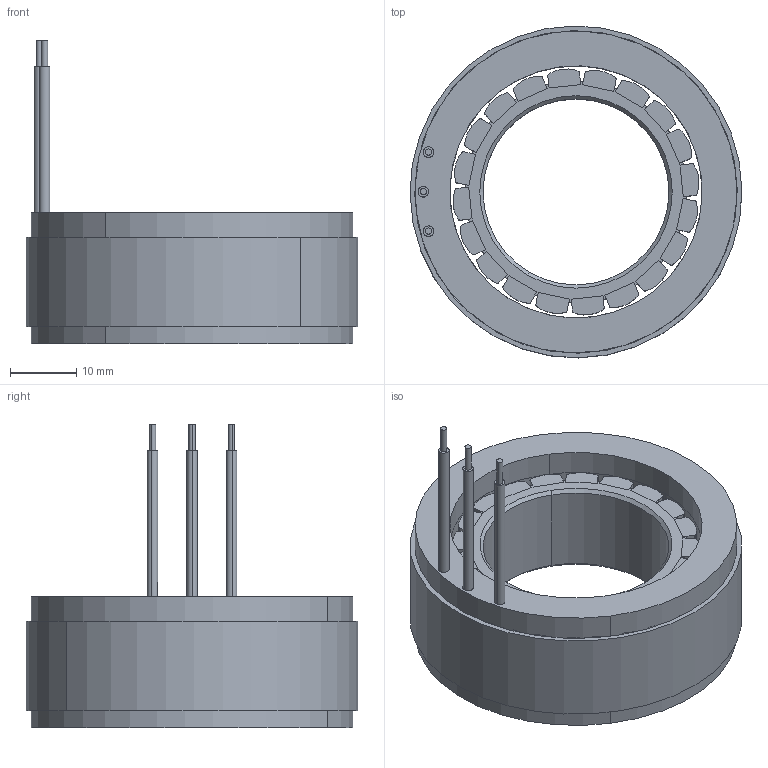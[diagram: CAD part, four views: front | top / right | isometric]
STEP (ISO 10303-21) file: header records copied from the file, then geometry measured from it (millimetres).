
FILE_DESCRIPTION (( 'STEP AP203' ), '1' );
FILE_NAME ('5019µç»ú - ÐÂ.STEP', '2025-02-18T06:18:29', ( '' ), ( '' ), 'SwSTEP 2.0', 'SolidWorks 2023', '' );
FILE_SCHEMA (( 'CONFIG_CONTROL_DESIGN' ));
Length unit declared in the file: millimetre
Products named in the file (1): 5019电机 - 新
Bounding box: 49.99 x 49.99 x 45.8 mm (x, y, z)
Surface area: 15746.2 mm2 (no closed solid volume)
Topology: 0 solids, 27 shells, 168 faces, 900 edges, 744 vertices
Faces by surface type: plane 94, cylinder 66, cone 8
Entity records: 8975 total; most frequent: CARTESIAN_POINT 1813, DIRECTION 1562, ORIENTED_EDGE 1186, EDGE_CURVE 900, VERTEX_POINT 744, VECTOR 576, LINE 576, AXIS2_PLACEMENT_3D 493
